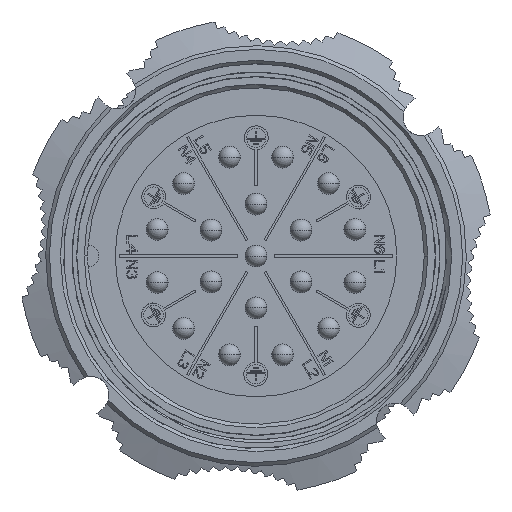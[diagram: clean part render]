
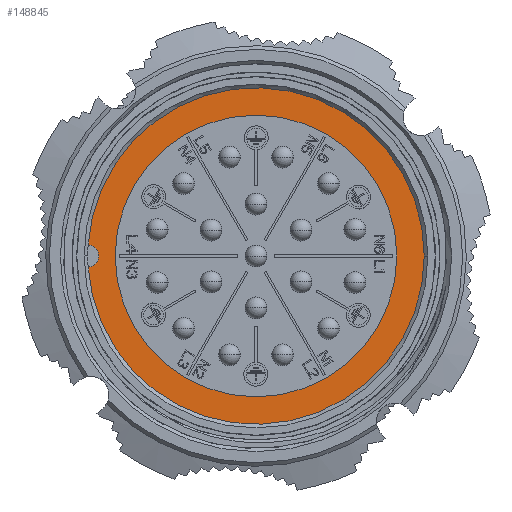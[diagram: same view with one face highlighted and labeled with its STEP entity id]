
A CAD part, left-side view. The second image highlights one B-rep face of the part: STEP entity #148845.
In plain terms, the highlighted planar face has unit normal (-1, 0, 0).
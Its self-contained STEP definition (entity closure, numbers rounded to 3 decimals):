
#1683=CARTESIAN_POINT('',(-9.8,0.,0.));
#1684=DIRECTION('',(-1.,0.,0.));
#1685=DIRECTION('',(0.,-1.,0.));
#1686=AXIS2_PLACEMENT_3D('',#1683,#1684,#1685);
#1688=CARTESIAN_POINT('',(-9.8,0.,0.));
#1689=DIRECTION('',(-1.,0.,0.));
#1690=DIRECTION('',(0.,1.,0.));
#1691=AXIS2_PLACEMENT_3D('',#1688,#1689,#1690);
#1693=CARTESIAN_POINT('',(-9.8,0.,0.));
#1694=DIRECTION('',(-1.,0.,0.));
#1695=DIRECTION('',(0.,1.,0.));
#1696=AXIS2_PLACEMENT_3D('',#1693,#1694,#1695);
#1698=CARTESIAN_POINT('',(-9.8,0.,0.));
#1699=DIRECTION('',(-1.,0.,0.));
#1700=DIRECTION('',(0.,-1.,0.));
#1701=AXIS2_PLACEMENT_3D('',#1698,#1699,#1700);
#146386=CARTESIAN_POINT('',(-9.8,-19.25,0.));
#146387=CARTESIAN_POINT('',(-9.8,19.25,0.));
#146388=VERTEX_POINT('',#146386);
#146389=VERTEX_POINT('',#146387);
#147461=CARTESIAN_POINT('',(-9.8,23.4,0.));
#147462=CARTESIAN_POINT('',(-9.8,-23.4,0.));
#147463=VERTEX_POINT('',#147461);
#147464=VERTEX_POINT('',#147462);
#148830=CARTESIAN_POINT('',(-9.8,0.,0.));
#148831=DIRECTION('',(1.,0.,0.));
#148832=DIRECTION('',(0.,-1.,0.));
#148833=AXIS2_PLACEMENT_3D('',#148830,#148831,#148832);
#148834=PLANE('',#148833);
#148836=ORIENTED_EDGE('',*,*,#148835,.F.);
#148838=ORIENTED_EDGE('',*,*,#148837,.F.);
#148839=EDGE_LOOP('',(#148836,#148838));
#148840=FACE_OUTER_BOUND('',#148839,.F.);
#148841=ORIENTED_EDGE('',*,*,#148810,.T.);
#148842=ORIENTED_EDGE('',*,*,#148824,.T.);
#148843=EDGE_LOOP('',(#148841,#148842));
#148844=FACE_BOUND('',#148843,.F.);
#148845=ADVANCED_FACE('',(#148840,#148844),#148834,.F.);
#1687=CIRCLE('',#1686,19.25);
#1692=CIRCLE('',#1691,19.25);
#1697=CIRCLE('',#1696,23.4);
#1702=CIRCLE('',#1701,23.4);
#148810=EDGE_CURVE('',#146388,#146389,#1687,.T.);
#148824=EDGE_CURVE('',#146389,#146388,#1692,.T.);
#148835=EDGE_CURVE('',#147463,#147464,#1697,.T.);
#148837=EDGE_CURVE('',#147464,#147463,#1702,.T.);
